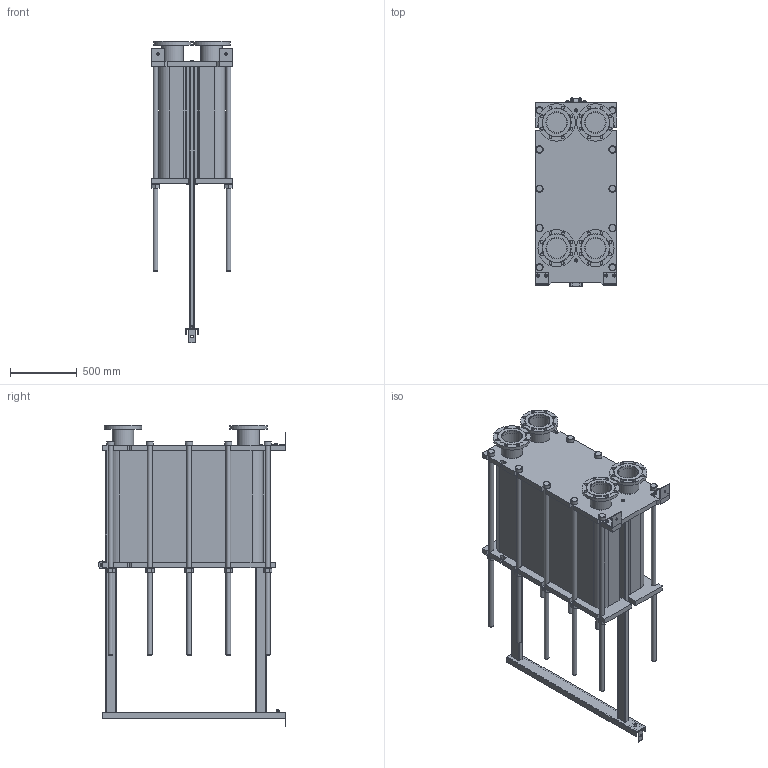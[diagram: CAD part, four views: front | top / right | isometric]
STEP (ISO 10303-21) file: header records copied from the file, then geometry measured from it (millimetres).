
FILE_DESCRIPTION(/* description */ (''),/* implementation_level */ '2;1');
FILE_NAME(/* name */ 'C:\Users\zhuro\Desktop\ENCO\TO\ЭН-041\ЭН-0,5-041-242-1.stp',/* time_stamp */ '2022-06-06T11:09:31+03:00',/* author */ ('zhuro'),/* organization */ (''),/* preprocessor_version */ 'ST-DEVELOPER v18.1',/* originating_system */ 'Autodesk Inventor 2022',/* authorisation */ '');
FILE_SCHEMA (('AUTOMOTIVE_DESIGN { 1 0 10303 214 3 1 1 }'));
Length unit declared in the file: millimetre
Products named in the file (1): ЭН-0,5-041-242-1
Bounding box: 610 x 1406.5 x 2255 mm (x, y, z)
Volume: 560030739.3 mm3; surface area: 12155494.7 mm2
Topology: 52 solids, 52 shells, 711 faces, 1696 edges, 1094 vertices
Faces by surface type: plane 487, cylinder 177, cone 41, torus 6
Full cylindrical faces by diameter (mm): 8 x4, 10 x2, 16 x8, 18 x3, 22 x32, 36 x24, 50 x1, 54 x10, 60 x12, 151 x4, 161 x8, 280 x4
Entity records: 22667 total; most frequent: CARTESIAN_POINT 5230, DIRECTION 3644, ORIENTED_EDGE 3392, EDGE_CURVE 1696, AXIS2_PLACEMENT_3D 1272, LINE 1100, VECTOR 1100, VERTEX_POINT 1094
